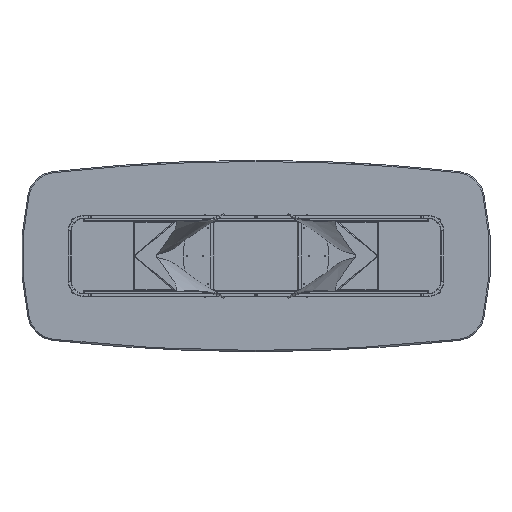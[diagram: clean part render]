
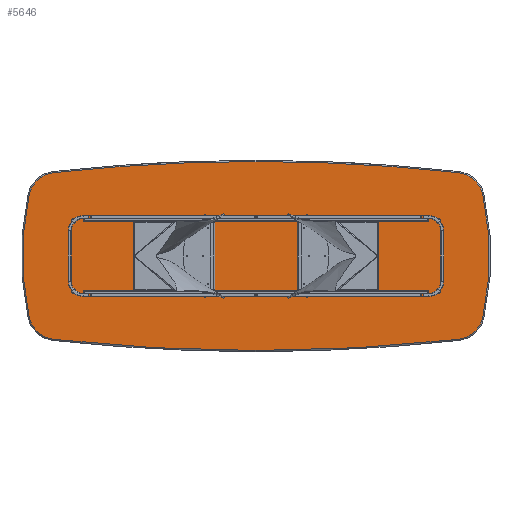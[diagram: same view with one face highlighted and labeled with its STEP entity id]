
A CAD part, front view. The second image highlights one B-rep face of the part: STEP entity #5646.
In plain terms, the highlighted planar face has unit normal (0, -1, 0).
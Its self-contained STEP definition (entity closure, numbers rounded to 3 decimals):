
#232 = VERTEX_POINT ( 'NONE', #5372 ) ;
#679 = CARTESIAN_POINT ( 'NONE',  ( 1540.305, 0., -417.747 ) ) ;
#1131 = CARTESIAN_POINT ( 'NONE',  ( 0., 0., -11850. ) ) ;
#1419 = CARTESIAN_POINT ( 'NONE',  ( 0., 0., -11850. ) ) ;
#2239 = CIRCLE ( 'NONE', #21219, 192. ) ;
#2526 = EDGE_CURVE ( 'NONE', #23148, #19727, #21949, .T. ) ;
#2552 = DIRECTION ( 'NONE',  ( 0., -1., 0. ) ) ;
#3192 = CIRCLE ( 'NONE', #10389, 192. ) ;
#3193 = FACE_OUTER_BOUND ( 'NONE', #18259, .T. ) ;
#3294 = EDGE_CURVE ( 'NONE', #19727, #232, #20465, .T. ) ;
#3521 = DIRECTION ( 'NONE',  ( 0., 0., 1. ) ) ;
#3934 = CIRCLE ( 'NONE', #17201, 1892. ) ;
#4221 = DIRECTION ( 'NONE',  ( 0., 0., 1. ) ) ;
#4840 = ORIENTED_EDGE ( 'NONE', *, *, #3294, .T. ) ;
#4861 = DIRECTION ( 'NONE',  ( 0., -1., 0. ) ) ;
#5372 = CARTESIAN_POINT ( 'NONE',  ( 1374.165, 0., -566.188 ) ) ;
#5548 = ORIENTED_EDGE ( 'NONE', *, *, #14625, .T. ) ;
#5631 = ORIENTED_EDGE ( 'NONE', *, *, #11936, .T. ) ;
#5646 = ADVANCED_FACE ( 'NONE', ( #3193 ), #10187, .F. ) ;
#6019 = ORIENTED_EDGE ( 'NONE', *, *, #2526, .T. ) ;
#6025 = CARTESIAN_POINT ( 'NONE',  ( 305., 0., 0. ) ) ;
#6054 = VERTEX_POINT ( 'NONE', #679 ) ;
#6761 = DIRECTION ( 'NONE',  ( 0., 0., 1. ) ) ;
#6920 = DIRECTION ( 'NONE',  ( 0., -1., 0. ) ) ;
#7054 = AXIS2_PLACEMENT_3D ( 'NONE', #1131, #15502, #8604 ) ;
#7992 = DIRECTION ( 'NONE',  ( 0., -1., 0. ) ) ;
#8478 = ORIENTED_EDGE ( 'NONE', *, *, #21598, .T. ) ;
#8604 = DIRECTION ( 'NONE',  ( 0., 0., 1. ) ) ;
#8667 = AXIS2_PLACEMENT_3D ( 'NONE', #15927, #10097, #12132 ) ;
#8863 = DIRECTION ( 'NONE',  ( 0., -1., 0. ) ) ;
#8889 = DIRECTION ( 'NONE',  ( 0., -1., 0. ) ) ;
#9115 = DIRECTION ( 'NONE',  ( 0., 0., 1. ) ) ;
#9346 = CIRCLE ( 'NONE', #11621, 12492. ) ;
#9443 = CARTESIAN_POINT ( 'NONE',  ( 1353.044, 0., 375.354 ) ) ;
#9630 = AXIS2_PLACEMENT_3D ( 'NONE', #16341, #8863, #3521 ) ;
#9910 = DIRECTION ( 'NONE',  ( 0., -1., 0. ) ) ;
#10033 = AXIS2_PLACEMENT_3D ( 'NONE', #6025, #9910, #16936 ) ;
#10045 = CARTESIAN_POINT ( 'NONE',  ( 0., 0., 642. ) ) ;
#10097 = DIRECTION ( 'NONE',  ( 0., -1., 0. ) ) ;
#10187 = PLANE ( 'NONE',  #21277 ) ;
#10389 = AXIS2_PLACEMENT_3D ( 'NONE', #9443, #2552, #4221 ) ;
#11553 = DIRECTION ( 'NONE',  ( 0., 0., 1. ) ) ;
#11621 = AXIS2_PLACEMENT_3D ( 'NONE', #1419, #4861, #17579 ) ;
#11936 = EDGE_CURVE ( 'NONE', #6054, #20496, #3934, .T. ) ;
#11977 = CARTESIAN_POINT ( 'NONE',  ( -152.5, 0., 5925. ) ) ;
#12132 = DIRECTION ( 'NONE',  ( 0., 0., 1. ) ) ;
#12329 = ORIENTED_EDGE ( 'NONE', *, *, #12757, .T. ) ;
#12553 = CARTESIAN_POINT ( 'NONE',  ( 1540.305, 0., 417.747 ) ) ;
#12757 = EDGE_CURVE ( 'NONE', #18695, #14272, #17611, .T. ) ;
#13006 = EDGE_CURVE ( 'NONE', #20496, #19520, #3192, .T. ) ;
#13124 = CARTESIAN_POINT ( 'NONE',  ( -1374.165, 0., -566.188 ) ) ;
#14123 = DIRECTION ( 'NONE',  ( 0., 1., 0. ) ) ;
#14232 = CARTESIAN_POINT ( 'NONE',  ( -1540.305, 0., 417.747 ) ) ;
#14272 = VERTEX_POINT ( 'NONE', #14232 ) ;
#14625 = EDGE_CURVE ( 'NONE', #14272, #23148, #17643, .T. ) ;
#14903 = EDGE_CURVE ( 'NONE', #19520, #20249, #16144, .T. ) ;
#15138 = ORIENTED_EDGE ( 'NONE', *, *, #14903, .T. ) ;
#15502 = DIRECTION ( 'NONE',  ( 0., -1., 0. ) ) ;
#15927 = CARTESIAN_POINT ( 'NONE',  ( -1353.044, 0., -375.354 ) ) ;
#16144 = CIRCLE ( 'NONE', #7054, 12492. ) ;
#16341 = CARTESIAN_POINT ( 'NONE',  ( -1353.044, 0., 375.354 ) ) ;
#16936 = DIRECTION ( 'NONE',  ( 0., 0., 1. ) ) ;
#17147 = CARTESIAN_POINT ( 'NONE',  ( 1353.044, 0., -375.354 ) ) ;
#17201 = AXIS2_PLACEMENT_3D ( 'NONE', #23308, #6920, #23072 ) ;
#17579 = DIRECTION ( 'NONE',  ( 0., 0., 1. ) ) ;
#17611 = CIRCLE ( 'NONE', #9630, 192. ) ;
#17643 = CIRCLE ( 'NONE', #10033, 1892. ) ;
#18259 = EDGE_LOOP ( 'NONE', ( #6019, #4840, #8478, #5631, #22841, #15138, #22228, #12329, #5548 ) ) ;
#18695 = VERTEX_POINT ( 'NONE', #22930 ) ;
#18700 = EDGE_CURVE ( 'NONE', #20249, #18695, #9346, .T. ) ;
#19520 = VERTEX_POINT ( 'NONE', #20122 ) ;
#19727 = VERTEX_POINT ( 'NONE', #13124 ) ;
#20122 = CARTESIAN_POINT ( 'NONE',  ( 1374.165, 0., 566.188 ) ) ;
#20249 = VERTEX_POINT ( 'NONE', #10045 ) ;
#20465 = CIRCLE ( 'NONE', #20829, 12492. ) ;
#20496 = VERTEX_POINT ( 'NONE', #12553 ) ;
#20829 = AXIS2_PLACEMENT_3D ( 'NONE', #23391, #8889, #9115 ) ;
#21055 = CARTESIAN_POINT ( 'NONE',  ( -1540.305, 0., -417.747 ) ) ;
#21219 = AXIS2_PLACEMENT_3D ( 'NONE', #17147, #7992, #11553 ) ;
#21277 = AXIS2_PLACEMENT_3D ( 'NONE', #11977, #14123, #6761 ) ;
#21598 = EDGE_CURVE ( 'NONE', #232, #6054, #2239, .T. ) ;
#21949 = CIRCLE ( 'NONE', #8667, 192. ) ;
#22228 = ORIENTED_EDGE ( 'NONE', *, *, #18700, .T. ) ;
#22841 = ORIENTED_EDGE ( 'NONE', *, *, #13006, .T. ) ;
#22930 = CARTESIAN_POINT ( 'NONE',  ( -1374.165, 0., 566.188 ) ) ;
#23072 = DIRECTION ( 'NONE',  ( 0., 0., 1. ) ) ;
#23148 = VERTEX_POINT ( 'NONE', #21055 ) ;
#23308 = CARTESIAN_POINT ( 'NONE',  ( -305., 0., 0. ) ) ;
#23391 = CARTESIAN_POINT ( 'NONE',  ( 0., 0., 11850. ) ) ;
